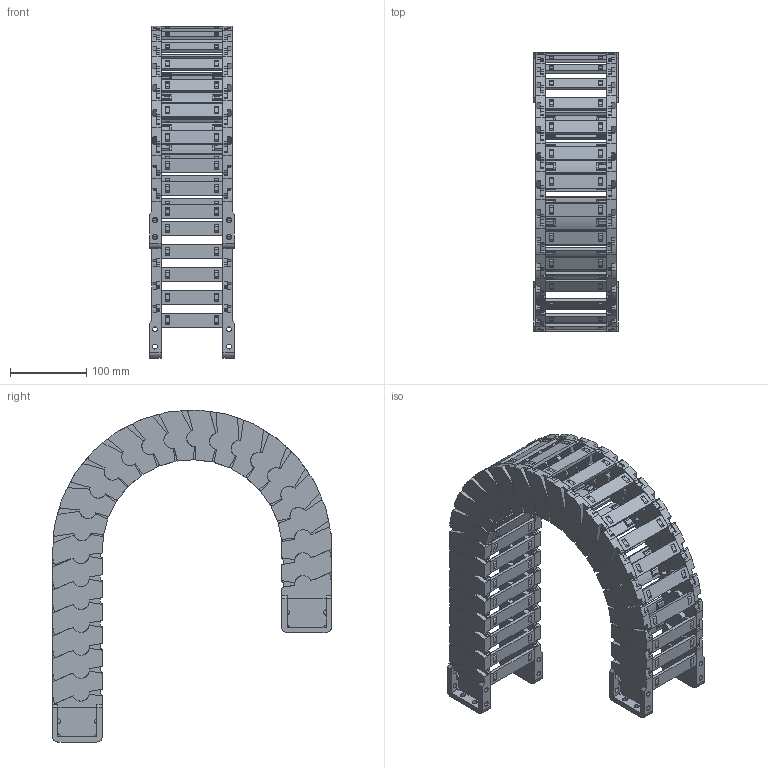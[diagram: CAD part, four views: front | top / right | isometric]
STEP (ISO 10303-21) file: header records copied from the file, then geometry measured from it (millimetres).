
FILE_DESCRIPTION((''),'2;1');
FILE_NAME('JY-52X80-R150_ASM','2025-09-12T14:23:03',('admin'),(''),'CREO PARAMETRIC BY PTC INC, 2021023','CREO PARAMETRIC BY PTC INC, 2021023','');
FILE_SCHEMA(('CONFIG_CONTROL_DESIGN'));
Length unit declared in the file: millimetre
Products named in the file (11): 52XL-L; 42-52XL-YP; 52XL-R; ASM0001_ASM; 52-LTT-A-L; 52-LTT-A-R; 52XL-LTT-A_ASM; 52-LTT-B-L; 52-LTT-B-R; 52XL-LTT-B_ASM; JY-52X80-R150_ASM
Assembly tree (37 placements, depth 3):
  JY-52X80-R150_ASM
    ASM0001_ASM  x23
      52XL-L
      42-52XL-YP
      52XL-R
    52XL-LTT-A_ASM
      52-LTT-A-L
      42-52XL-YP  x2
      52-LTT-A-R
    52XL-LTT-B_ASM
      52-LTT-B-L
      42-52XL-YP  x2
      52-LTT-B-R
Bounding box: 111 x 365.02 x 434.64 mm (x, y, z)
Volume: 1431318.5 mm3; surface area: 711371.3 mm2
Topology: 100 solids, 100 shells, 5112 faces, 15490 edges, 10576 vertices
Faces by surface type: plane 3634, cylinder 1094, cone 384
Entity records: 18514 total; most frequent: CARTESIAN_POINT 3398, DIRECTION 3142, ORIENTED_EDGE 3124, EDGE_CURVE 1562, VECTOR 1074, LINE 1074, VERTEX_POINT 1056, AXIS2_PLACEMENT_3D 1034
